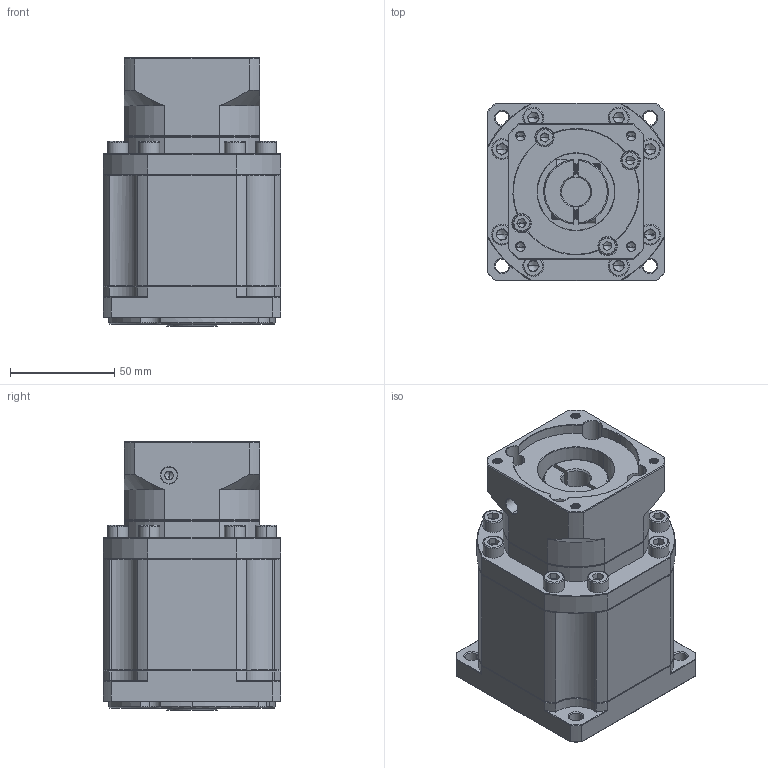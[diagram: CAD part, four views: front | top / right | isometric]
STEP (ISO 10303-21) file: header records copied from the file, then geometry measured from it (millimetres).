
FILE_DESCRIPTION (( 'STEP AP214' ), '1' );
FILE_NAME ('ZB090-K15-L3-P2-14-60-75-M5.step', '2023-08-18T13:42:20', ( '' ), ( '' ), 'SwSTEP 2.0', 'SolidWorks 2016', '' );
FILE_SCHEMA (( 'AUTOMOTIVE_DESIGN' ));
Length unit declared in the file: millimetre
Products named in the file (1): ZB090-K15-L3-P2-14-60-75-M5
Bounding box: 85 x 85 x 128.5 mm (x, y, z)
Volume: 642635.6 mm3; surface area: 80973.4 mm2
Topology: 6 solids, 6 shells, 2319 faces, 6183 edges, 3955 vertices
Faces by surface type: plane 1178, bspline 416, cylinder 382, cone 321, torus 22
Entity records: 120229 total; most frequent: CARTESIAN_POINT 40110, ORIENTED_EDGE 12278, DIRECTION 9845, EDGE_CURVE 6139, VERTEX_POINT 3955, LINE 3909, VECTOR 3909, AXIS2_PLACEMENT_3D 2968
